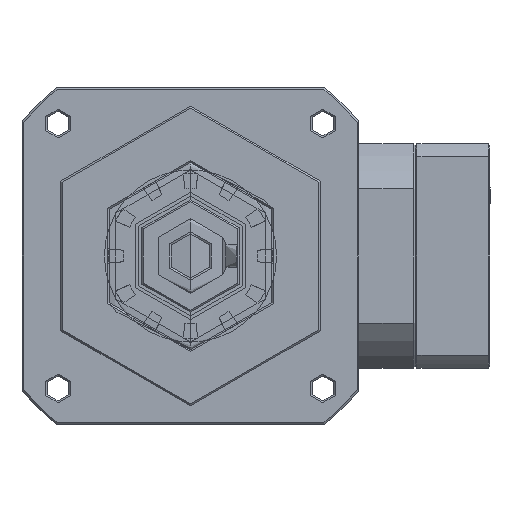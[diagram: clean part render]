
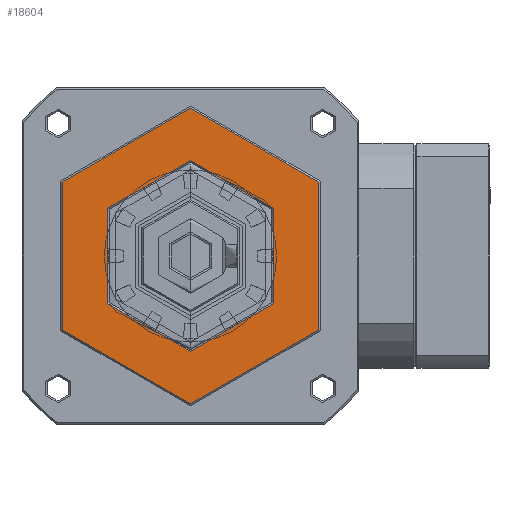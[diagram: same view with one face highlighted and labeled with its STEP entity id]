
A CAD part, left-side view. The second image highlights one B-rep face of the part: STEP entity #18604.
In plain terms, the highlighted planar face has unit normal (-1, 0, 0).
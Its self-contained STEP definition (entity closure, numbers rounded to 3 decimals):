
#685 = AXIS2_PLACEMENT_3D ( 'NONE', #6806, #54401, #54061 ) ;
#6806 = CARTESIAN_POINT ( 'NONE',  ( 0., 0., 0. ) ) ;
#9931 = VERTEX_POINT ( 'NONE', #51841 ) ;
#16619 = AXIS2_PLACEMENT_3D ( 'NONE', #29415, #100968, #60401 ) ;
#18604 = ADVANCED_FACE ( 'NONE', ( #96683, #61933 ), #96693, .F. ) ;
#23810 = CARTESIAN_POINT ( 'NONE',  ( 0., 0., 39.5 ) ) ;
#26111 = CIRCLE ( 'NONE', #85120, 39.5 ) ;
#29415 = CARTESIAN_POINT ( 'NONE',  ( 0., 0., 0. ) ) ;
#31584 = CIRCLE ( 'NONE', #685, 25.5 ) ;
#31888 = VERTEX_POINT ( 'NONE', #45990 ) ;
#31976 = CARTESIAN_POINT ( 'NONE',  ( 0., 0., 25.5 ) ) ;
#39053 = EDGE_LOOP ( 'NONE', ( #96939, #74703 ) ) ;
#45651 = CARTESIAN_POINT ( 'NONE',  ( 0., 0., 0. ) ) ;
#45907 = CIRCLE ( 'NONE', #84533, 39.5 ) ;
#45990 = CARTESIAN_POINT ( 'NONE',  ( 0., 0., -39.5 ) ) ;
#49163 = DIRECTION ( 'NONE',  ( 0., 0., -1. ) ) ;
#50296 = AXIS2_PLACEMENT_3D ( 'NONE', #81472, #65836, #49163 ) ;
#50704 = ORIENTED_EDGE ( 'NONE', *, *, #71031, .T. ) ;
#51841 = CARTESIAN_POINT ( 'NONE',  ( 0., 0., -25.5 ) ) ;
#54061 = DIRECTION ( 'NONE',  ( 0., 0., 1. ) ) ;
#54401 = DIRECTION ( 'NONE',  ( -1., 0., 0. ) ) ;
#57805 = DIRECTION ( 'NONE',  ( 0., 0., -1. ) ) ;
#60401 = DIRECTION ( 'NONE',  ( 0., 0., 1. ) ) ;
#60538 = EDGE_CURVE ( 'NONE', #68454, #9931, #31584, .T. ) ;
#61933 = FACE_OUTER_BOUND ( 'NONE', #90566, .T. ) ;
#65477 = DIRECTION ( 'NONE',  ( -1., 0., 0. ) ) ;
#65836 = DIRECTION ( 'NONE',  ( 1., 0., 0. ) ) ;
#68454 = VERTEX_POINT ( 'NONE', #31976 ) ;
#71031 = EDGE_CURVE ( 'NONE', #31888, #101744, #45907, .T. ) ;
#74703 = ORIENTED_EDGE ( 'NONE', *, *, #83702, .F. ) ;
#80360 = CIRCLE ( 'NONE', #16619, 25.5 ) ;
#81472 = CARTESIAN_POINT ( 'NONE',  ( 0., -39.974, 39.974 ) ) ;
#83702 = EDGE_CURVE ( 'NONE', #9931, #68454, #80360, .T. ) ;
#84234 = DIRECTION ( 'NONE',  ( 0., 0., -1. ) ) ;
#84533 = AXIS2_PLACEMENT_3D ( 'NONE', #45651, #92555, #84234 ) ;
#85120 = AXIS2_PLACEMENT_3D ( 'NONE', #89755, #65477, #57805 ) ;
#88623 = ORIENTED_EDGE ( 'NONE', *, *, #99466, .T. ) ;
#89755 = CARTESIAN_POINT ( 'NONE',  ( 0., 0., 0. ) ) ;
#90566 = EDGE_LOOP ( 'NONE', ( #50704, #88623 ) ) ;
#92555 = DIRECTION ( 'NONE',  ( -1., 0., 0. ) ) ;
#96683 = FACE_BOUND ( 'NONE', #39053, .T. ) ;
#96693 = PLANE ( 'NONE',  #50296 ) ;
#96939 = ORIENTED_EDGE ( 'NONE', *, *, #60538, .F. ) ;
#99466 = EDGE_CURVE ( 'NONE', #101744, #31888, #26111, .T. ) ;
#100968 = DIRECTION ( 'NONE',  ( -1., 0., 0. ) ) ;
#101744 = VERTEX_POINT ( 'NONE', #23810 ) ;
